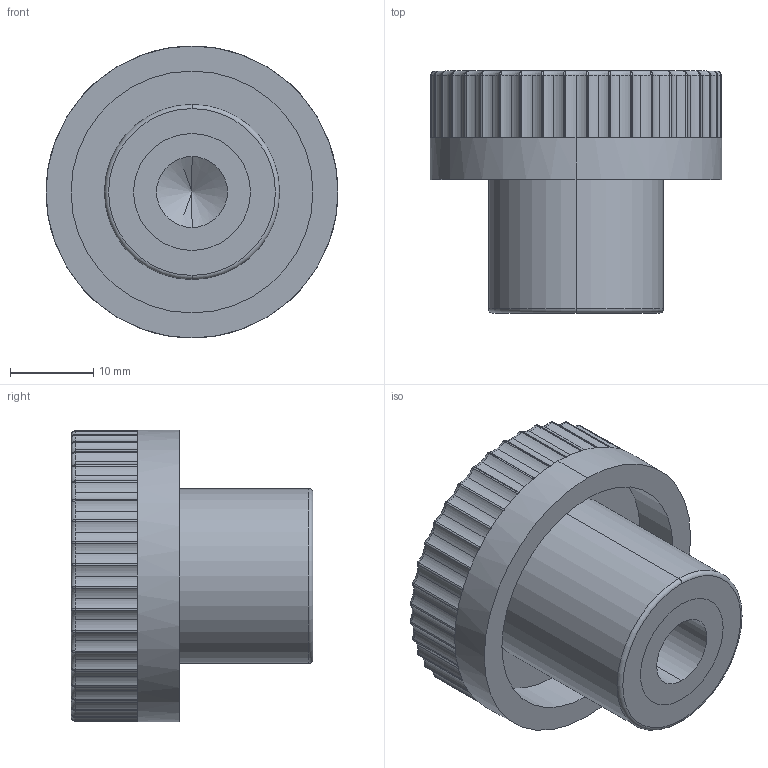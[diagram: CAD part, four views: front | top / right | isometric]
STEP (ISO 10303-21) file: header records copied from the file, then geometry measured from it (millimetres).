
FILE_DESCRIPTION (( 'STEP AP203' ), '1' );
FILE_NAME ('AP-2031-35-M10.STEP', '2015-11-23T10:53:56', ( '' ), ( '' ), 'SwSTEP 2.0', 'SolidWorks 2014', '' );
FILE_SCHEMA (( 'CONFIG_CONTROL_DESIGN' ));
Length unit declared in the file: millimetre
Products named in the file (1): AP-2031-35-M10
Bounding box: 35 x 29 x 35 mm (x, y, z)
Volume: 13620.1 mm3; surface area: 7986.1 mm2
Topology: 2 solids, 2 shells, 252 faces, 638 edges, 355 vertices
Faces by surface type: cylinder 146, torus 53, bspline 40, plane 9, cone 2, sphere 2
Entity records: 8371 total; most frequent: CARTESIAN_POINT 2524, DIRECTION 1310, ORIENTED_EDGE 1192, EDGE_CURVE 596, AXIS2_PLACEMENT_3D 581, CIRCLE 368, VERTEX_POINT 355, EDGE_LOOP 261
